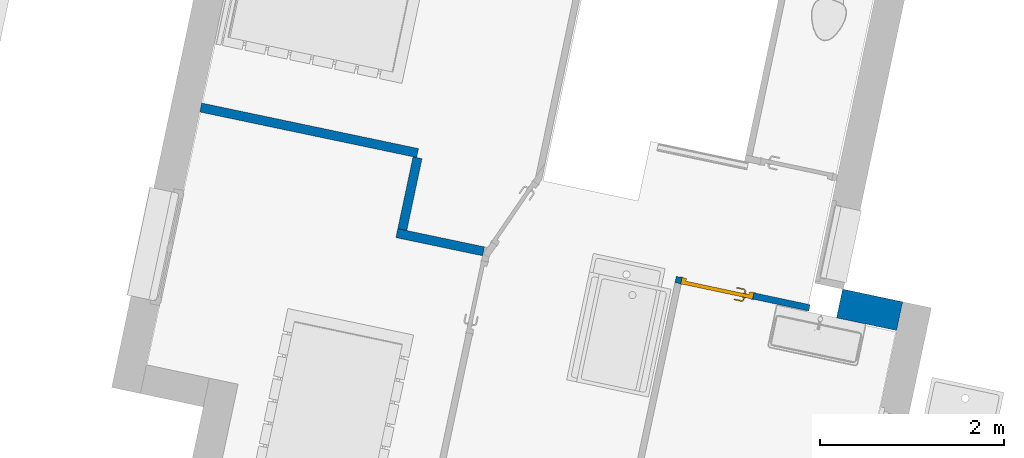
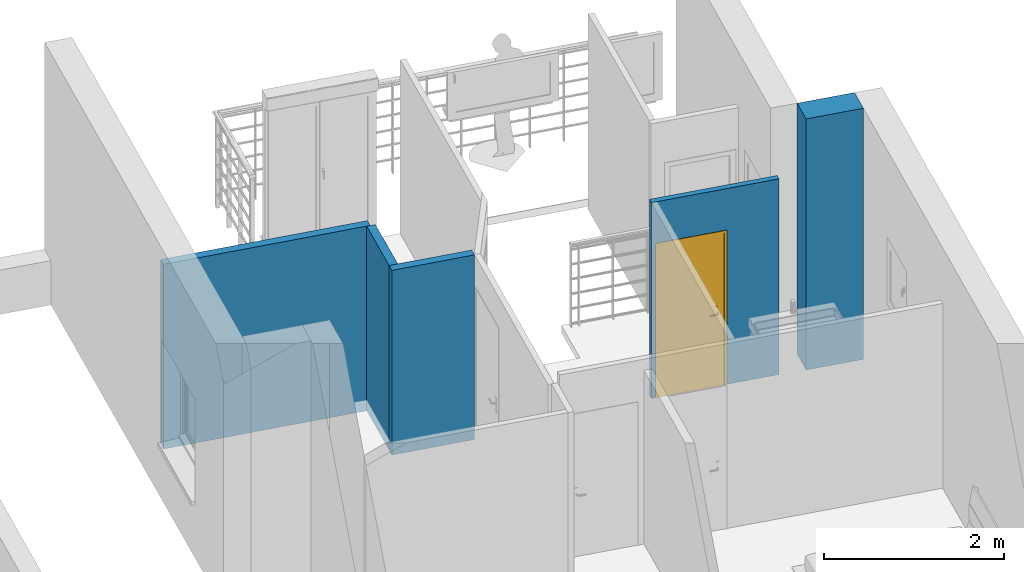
# One storey, part 7 of 18: 5 walls, 1 door, 3 openings.
"""IFC2X3 building model written with IfcOpenShell, lengths in metres."""

from ifc_helpers import new_model, entity, si_unit, converted_unit, derived_unit, direction, frame, frame_2d, origin, place, context, subcontext, project, spatial, polyline, rectangle, outline, extrude, faceted_brep, source, transform, mapped, material, material_list, layer, layer_set, layer_usage, type_object, type_shapes, element, fill, save


model = new_model("IFC2X3")

# Units and contexts
model_context = context("Model", 3, precision=1e-05, world=origin(), true_north=direction((6.12303176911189e-17, 1.0)))
body_context = subcontext(model_context, "Body", "Model", "MODEL_VIEW")
ifc_project = project(units=[si_unit("LENGTHUNIT", "METRE"), si_unit("AREAUNIT", "SQUARE_METRE"), si_unit("VOLUMEUNIT", "CUBIC_METRE"), converted_unit("PLANEANGLEUNIT", "DEGREE", entity("IfcRatioMeasure", 0.0174532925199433), si_unit("PLANEANGLEUNIT", "RADIAN"), dimensions=[0, 0, 0, 0, 0, 0, 0]), si_unit("MASSUNIT", "GRAM", prefix="KILO"), derived_unit("MASSDENSITYUNIT", [(si_unit("MASSUNIT", "GRAM", prefix="KILO"), 1), (si_unit("LENGTHUNIT", "METRE"), -3)]), si_unit("TIMEUNIT", "SECOND"), si_unit("FREQUENCYUNIT", "HERTZ"), si_unit("THERMODYNAMICTEMPERATUREUNIT", "DEGREE_CELSIUS"), derived_unit("THERMALTRANSMITTANCEUNIT", [(si_unit("MASSUNIT", "GRAM", prefix="KILO"), 1), (si_unit("THERMODYNAMICTEMPERATUREUNIT", "KELVIN"), -1), (si_unit("TIMEUNIT", "SECOND"), -3)]), derived_unit("VOLUMETRICFLOWRATEUNIT", [(si_unit("LENGTHUNIT", "METRE"), 3), (si_unit("TIMEUNIT", "SECOND"), -1)]), si_unit("ELECTRICCURRENTUNIT", "AMPERE"), si_unit("ELECTRICVOLTAGEUNIT", "VOLT"), si_unit("POWERUNIT", "WATT"), si_unit("FORCEUNIT", "NEWTON", prefix="KILO"), si_unit("ILLUMINANCEUNIT", "LUX"), si_unit("LUMINOUSFLUXUNIT", "LUMEN"), si_unit("LUMINOUSINTENSITYUNIT", "CANDELA"), derived_unit("USERDEFINED", [(si_unit("MASSUNIT", "GRAM", prefix="KILO"), -1), (si_unit("LENGTHUNIT", "METRE"), -2), (si_unit("TIMEUNIT", "SECOND"), 3), (si_unit("LUMINOUSFLUXUNIT", "LUMEN"), 1)]), derived_unit("LINEARVELOCITYUNIT", [(si_unit("LENGTHUNIT", "METRE"), 1), (si_unit("TIMEUNIT", "SECOND"), -1)]), si_unit("PRESSUREUNIT", "PASCAL"), derived_unit("USERDEFINED", [(si_unit("LENGTHUNIT", "METRE"), -2), (si_unit("MASSUNIT", "GRAM", prefix="KILO"), 1), (si_unit("TIMEUNIT", "SECOND"), -2)])], contexts=[model_context])

# Site, building, storey
site_placement = place(None, origin())
site = spatial("IfcSite", under=ifc_project, at=site_placement, Name="Default", CompositionType="ELEMENT")
building_placement = place(site_placement, origin())
building = spatial("IfcBuilding", under=site, at=building_placement, CompositionType="ELEMENT")
storey_placement = place(building_placement, frame((0.0, 0.0, 2.8)))
storey = spatial("IfcBuildingStorey", under=building, at=storey_placement, Name="ETAGE", CompositionType="ELEMENT", Elevation=2.8)

# Wall, opening
ifc_material_1 = material(Name="Enduit blanc cassé2")
ifc_layer_1 = layer(ifc_material_1, 0.02)
ifc_material_2 = material(Name="Parpaing")
ifc_layer_2 = layer(ifc_material_2, 0.2)
ifc_material_3 = material(Name="Isolant")
ifc_layer_3 = layer(ifc_material_3, 0.1)
ifc_layer_set_1 = layer_set([ifc_layer_1, ifc_layer_2, ifc_layer_3], Name="Mur de base:Ext. Parpaing 20 + Isolant 10 enduit blanc cassé")
ifc_layer_usage_1 = layer_usage(ifc_layer_set_1, "AXIS2", "POSITIVE", -0.16)
wall_type_1 = type_object("IfcWallType", Name="Mur de base:Ext. Parpaing 20 + Isolant 10 enduit blanc cassé", PredefinedType="STANDARD", material=ifc_layer_set_1)
wall_1_placement = place(storey_placement, frame((-10.4137530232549, 81.3427556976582, 0.0), z_axis=(0.0, 0.0, 1.0), x_axis=(-0.978238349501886, 0.207484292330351, 0.0)))
wall_1 = element("IfcWallStandardCase", 1, at=wall_1_placement, inside=storey, type_object=wall_type_1, material=ifc_layer_usage_1, Name="Mur de base:Ext. Parpaing 20 + Isolant 10 enduit blanc cassé", ObjectType="Mur de base:Ext. Parpaing 20 + Isolant 10 enduit blanc cassé", context=body_context, shape_type="SweptSolid", body=[
    extrude(rectangle(XDim=0.66848034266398, YDim=0.319999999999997, at=frame_2d((0.334240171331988, 5.62050406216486e-15), x_axis=(-1.0, 0.0))), origin(), (0.0, 0.0, 1.0), 3.4),
])
opening_1_placement = place(wall_1_placement, frame((1.27722268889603, -0.0330352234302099, 0.494039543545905)))
element("IfcOpeningElement", 2, at=opening_1_placement, cuts=wall_1, Name="Mur de base:Ext. Parpaing 20 + Isolant 10 enduit blanc cassé", ObjectType="Opening", context=body_context, shape_type="Brep", body=[
    faceted_brep([(-0.376376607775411, -1.00245285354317, 0.0759604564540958), (-0.396376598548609, -1.00247206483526, 0.0759604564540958), (-0.396376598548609, -1.00247206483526, 1.67596045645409), (-0.956376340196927, -1.00300998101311, 1.67596045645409), (-0.956376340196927, -1.00300998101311, 0.0), (-0.376376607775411, -1.00245285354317, 0.0609604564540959), (0.0428547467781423, -0.202049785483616, 0.0759604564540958), (-0.297145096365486, -0.202376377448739, 0.0759604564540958), (-0.297145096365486, -0.202376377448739, 1.67596045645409), (0.0428547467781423, -0.202049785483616, 1.67596045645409), (0.0436231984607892, -1.0020494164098, 0.0759604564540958), (-0.296376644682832, -1.00237600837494, 0.0759604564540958), (-0.29632861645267, -1.05237598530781, 0.0759604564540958), (-0.346328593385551, -1.05242401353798, 0.0759604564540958), (-0.346367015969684, -1.01242403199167, 0.0759604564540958), (-0.396366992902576, -1.01247206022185, 0.0759604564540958), (-0.377145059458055, -0.202453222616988, 0.0759604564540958), (-0.397145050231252, -0.202472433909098, 0.0759604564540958), (-0.397154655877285, -0.19247243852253, 0.0759604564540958), (-0.347154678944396, -0.192424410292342, 0.0759604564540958), (-0.347193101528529, -0.152424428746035, 0.0759604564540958), (-0.297193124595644, -0.152376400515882, 0.0759604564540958), (0.0436231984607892, -1.0020494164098, 1.67596045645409), (-0.397145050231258, -0.202472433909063, 1.67596045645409), (-0.957144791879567, -0.203010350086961, 1.67596045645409), (-0.957144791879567, -0.203010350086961, 0.0), (-0.377145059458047, -0.202453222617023, 0.0609604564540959), (-0.29632861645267, -1.05237598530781, 1.72596045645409), (-0.346328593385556, -1.05242401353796, 1.72596045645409), (-0.347193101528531, -0.152424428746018, 1.72596045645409), (-0.347154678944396, -0.192424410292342, 1.68596045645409), (-0.346367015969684, -1.01242403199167, 1.68596045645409), (-0.396366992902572, -1.01247206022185, 1.68596045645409), (-0.397154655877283, -0.19247243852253, 1.68596045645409), (-0.296376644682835, -1.00237600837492, 1.67596045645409), (-0.297193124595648, -0.152376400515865, 1.72596045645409)], [[[0, 1, 2, 3, 4, 5]], [[6, 7, 8, 9]], [[10, 11, 12, 13, 14, 15, 1, 0, 16, 17, 18, 19, 20, 21, 7, 6]], [[10, 6, 9, 22]], [[3, 2, 23, 24]], [[3, 24, 25, 4]], [[4, 25, 26, 5]], [[5, 26, 16, 0]], [[12, 27, 28, 13]], [[13, 28, 29, 20, 19, 30, 31, 14]], [[14, 31, 32, 15]], [[15, 32, 33, 18, 17, 23, 2, 1]], [[11, 34, 8, 7, 21, 35, 27, 12]], [[27, 35, 29, 28]], [[30, 33, 32, 31]], [[29, 35, 21, 20]], [[19, 18, 33, 30]], [[9, 8, 34, 22]], [[24, 23, 17, 16, 26, 25]], [[22, 34, 11, 10]]]),
])

# Wall, openings, door
ifc_material_4 = material(Name="Blanc - Element de salle de bains")
ifc_layer_4 = layer(ifc_material_4, 0.07)
ifc_layer_set_2 = layer_set([ifc_layer_4], Name="Mur de base:Int.  Platre 70 mm en blanc")
ifc_layer_usage_2 = layer_usage(ifc_layer_set_2, "AXIS2", "NEGATIVE", 0.035)
wall_type_2 = type_object("IfcWallType", Name="Mur de base:Int.  Platre 70 mm en blanc", PredefinedType="STANDARD", material=ifc_layer_set_2)
wall_2_placement = place(storey_placement, frame((-11.3960010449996, 81.4335321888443, 0.0), z_axis=(0.0, 0.0, 1.0), x_axis=(-0.978238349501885, 0.207484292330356, 0.0)))
wall_2 = element("IfcWallStandardCase", 3, at=wall_2_placement, inside=storey, type_object=wall_type_2, material=ifc_layer_usage_2, Name="Mur de base:Int.  Platre 70 mm en blanc", ObjectType="Mur de base:Int.  Platre 70 mm en blanc", context=body_context, shape_type="SweptSolid", body=[
    extrude(outline(polyline([(6.72395532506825e-05, -0.0350000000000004), (1.49029262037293, -0.0350000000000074), (1.49029262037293, 0.0349999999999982), (1.42029262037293, 0.0349999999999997), (0.0, 0.0349999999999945), (6.72395532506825e-05, -0.0350000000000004)])), origin(), (0.0, 0.0, 1.0), 2.65),
])
opening_2_placement = place(wall_2_placement, frame((0.297515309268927, -0.148035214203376, 0.494039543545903)))
element("IfcOpeningElement", 4, at=opening_2_placement, cuts=wall_2, Name="Mur de base:Int.  Platre 70 mm en blanc", ObjectType="Opening", context=body_context, shape_type="Brep", body=[
    faceted_brep([(-0.376376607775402, -1.0024528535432, 0.0759604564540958), (-0.396376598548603, -1.00247206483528, 0.0759604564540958), (-0.396376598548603, -1.00247206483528, 1.67596045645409), (-0.95637634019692, -1.00300998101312, 1.67596045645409), (-0.95637634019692, -1.00300998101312, 0.0), (-0.376376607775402, -1.0024528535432, 0.0609604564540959), (0.0428547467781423, -0.202049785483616, 0.0759604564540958), (-0.297145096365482, -0.202376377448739, 0.0759604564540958), (-0.297145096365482, -0.202376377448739, 1.67596045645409), (0.0428547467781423, -0.202049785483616, 1.67596045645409), (0.0436231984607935, -1.0020494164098, 0.0759604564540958), (-0.296376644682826, -1.00237600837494, 0.0759604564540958), (-0.296328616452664, -1.05237598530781, 0.0759604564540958), (-0.346328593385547, -1.052424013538, 0.0759604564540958), (-0.346367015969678, -1.01242403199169, 0.0759604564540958), (-0.396366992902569, -1.01247206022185, 0.0759604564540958), (-0.377145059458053, -0.202453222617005, 0.0759604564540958), (-0.39714505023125, -0.202472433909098, 0.0759604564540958), (-0.397154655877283, -0.19247243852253, 0.0759604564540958), (-0.347154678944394, -0.192424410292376, 0.0759604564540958), (-0.347193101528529, -0.152424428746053, 0.0759604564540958), (-0.297193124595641, -0.152376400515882, 0.0759604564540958), (0.0436231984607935, -1.0020494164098, 1.67596045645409), (-0.397145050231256, -0.202472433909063, 1.67596045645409), (-0.957144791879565, -0.203010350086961, 1.67596045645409), (-0.957144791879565, -0.203010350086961, 0.0), (-0.377145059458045, -0.20245322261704, 0.0609604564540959), (-0.296328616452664, -1.05237598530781, 1.72596045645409), (-0.346328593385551, -1.05242401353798, 1.72596045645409), (-0.347193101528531, -0.152424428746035, 1.72596045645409), (-0.347154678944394, -0.192424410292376, 1.68596045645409), (-0.346367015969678, -1.01242403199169, 1.68596045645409), (-0.396366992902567, -1.01247206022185, 1.68596045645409), (-0.397154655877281, -0.19247243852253, 1.68596045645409), (-0.296376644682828, -1.00237600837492, 1.67596045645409), (-0.297193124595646, -0.152376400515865, 1.72596045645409)], [[[0, 1, 2, 3, 4, 5]], [[6, 7, 8, 9]], [[10, 11, 12, 13, 14, 15, 1, 0, 16, 17, 18, 19, 20, 21, 7, 6]], [[10, 6, 9, 22]], [[3, 2, 23, 24]], [[3, 24, 25, 4]], [[4, 25, 26, 5]], [[5, 26, 16, 0]], [[12, 27, 28, 13]], [[13, 28, 29, 20, 19, 30, 31, 14]], [[14, 31, 32, 15]], [[15, 32, 33, 18, 17, 23, 2, 1]], [[11, 34, 8, 7, 21, 35, 27, 12]], [[27, 35, 29, 28]], [[30, 33, 32, 31]], [[29, 35, 21, 20]], [[19, 18, 33, 30]], [[9, 8, 34, 22]], [[24, 23, 17, 16, 26, 25]], [[22, 34, 11, 10]]]),
])
opening_3_placement = place(wall_2_placement, frame((0.625946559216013, -0.035, 0.0)))
opening_3 = element("IfcOpeningElement", 5, at=opening_3_placement, cuts=wall_2, Name="Int. Simple:PP (0.73m x 2.04m):1", ObjectType="Opening", context=body_context, shape_type="SweptSolid", body=[
    extrude(rectangle(XDim=2.075, YDim=0.799999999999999, at=frame_2d((1.0375, 0.4), x_axis=(1.0, 0.0))), frame((0.0, 0.0, 0.0), z_axis=(0.0, 1.0, 0.0), x_axis=(0.0, 0.0, 1.0)), (0.0, 0.0, 1.0), 0.07),
])
ifc_material_5 = material(Name="Finition Peinture - Blanc satiné")
ifc_material_6 = material(Name="Bois - Mélaminé hêtre")
ifc_material_list_1 = material_list([ifc_material_5, ifc_material_6])
ifc_material_list_2 = material_list([ifc_material_5, ifc_material_6])
door_style = type_object("IfcDoorStyle", Name="PP (0.73m x 2.04m)", ConstructionType="NOTDEFINED", OperationType="SINGLE_SWING_RIGHT", ParameterTakesPrecedence=False, Sizeable=False, material=ifc_material_list_2)
shared_shape = source(origin(), body_context, "Body", "Brep", [
    faceted_brep([(0.795000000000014, -0.00500000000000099, 0.870000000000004), (0.795000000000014, -0.00500000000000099, 1.08), (0.785352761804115, -0.00500000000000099, 1.08399601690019), (0.775000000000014, -0.00500000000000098, 1.08535898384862), (0.764647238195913, -0.00500000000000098, 1.08399601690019), (0.755000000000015, -0.00500000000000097, 1.08), (0.755000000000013, -0.00500000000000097, 0.870000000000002), (0.764647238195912, -0.00500000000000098, 0.866003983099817), (0.775000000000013, -0.00500000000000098, 0.86464101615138), (0.785352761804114, -0.00500000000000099, 0.866003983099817), (0.795000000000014, 0.0, 1.08), (0.795000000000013, 0.0, 0.870000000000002), (0.785352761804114, 0.0, 0.866003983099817), (0.775000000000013, 0.0, 0.86464101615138), (0.764647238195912, 0.0, 0.866003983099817), (0.755000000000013, 0.0, 0.870000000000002), (0.755000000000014, 0.0, 1.08), (0.764647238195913, 0.0, 1.08399601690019), (0.775000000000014, 0.0, 1.08535898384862), (0.785352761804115, 0.0, 1.08399601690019)], [[[0, 1, 2, 3, 4, 5, 6, 7, 8, 9]], [[10, 11, 12, 13, 14, 15, 16, 17, 18, 19]], [[9, 12, 11, 0]], [[8, 13, 12, 9]], [[7, 14, 13, 8]], [[7, 6, 15, 14]], [[15, 6, 5, 16]], [[4, 17, 16, 5]], [[3, 18, 17, 4]], [[2, 19, 18, 3]], [[2, 1, 10, 19]], [[11, 10, 1, 0]]]),
    faceted_brep([(0.795000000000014, 0.039999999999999, 0.870000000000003), (0.795000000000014, 0.039999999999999, 1.08), (0.785352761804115, 0.039999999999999, 1.08399601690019), (0.775000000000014, 0.039999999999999, 1.08535898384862), (0.764647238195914, 0.039999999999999, 1.08399601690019), (0.755000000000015, 0.039999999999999, 1.08), (0.755000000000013, 0.039999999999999, 0.870000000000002), (0.764647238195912, 0.039999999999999, 0.866003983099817), (0.775000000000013, 0.039999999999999, 0.86464101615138), (0.785352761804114, 0.039999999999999, 0.866003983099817), (0.775000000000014, 0.044999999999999, 1.08535898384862), (0.785352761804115, 0.044999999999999, 1.08399601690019), (0.795000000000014, 0.044999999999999, 1.08), (0.795000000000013, 0.044999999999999, 0.870000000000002), (0.785352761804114, 0.044999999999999, 0.866003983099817), (0.775000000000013, 0.044999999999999, 0.86464101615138), (0.764647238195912, 0.044999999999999, 0.866003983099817), (0.755000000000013, 0.044999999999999, 0.870000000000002), (0.755000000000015, 0.044999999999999, 1.08), (0.764647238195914, 0.044999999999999, 1.08399601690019)], [[[0, 1, 2, 3, 4, 5, 6, 7, 8, 9]], [[10, 11, 12, 13, 14, 15, 16, 17, 18, 19]], [[4, 19, 18, 5]], [[3, 10, 19, 4]], [[2, 11, 10, 3]], [[2, 1, 12, 11]], [[13, 12, 1, 0]], [[9, 14, 13, 0]], [[8, 15, 14, 9]], [[7, 16, 15, 8]], [[7, 6, 17, 16]], [[17, 6, 5, 18]]]),
    faceted_brep([(0.772974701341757, -0.00500000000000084, 1.00778044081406), (0.777025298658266, -0.00500000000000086, 1.00778044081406), (0.781000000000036, -0.00500000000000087, 1.00699999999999), (0.781000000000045, -0.00500000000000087, 0.992999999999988), (0.777025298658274, -0.00500000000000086, 0.99221955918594), (0.772974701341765, -0.00500000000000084, 0.992219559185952), (0.768999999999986, -0.00500000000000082, 0.993000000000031), (0.768999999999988, -0.00500000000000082, 1.007), (0.777025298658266, -0.0310045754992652, 1.00778044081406), (0.781000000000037, -0.0326509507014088, 1.007), (0.772974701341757, -0.0293267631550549, 1.00778044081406), (0.759298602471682, -0.0430028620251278, 1.00778044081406), (0.760976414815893, -0.047053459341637, 1.00778044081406), (0.768999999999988, -0.0276803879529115, 1.007), (0.768999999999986, -0.0276803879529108, 0.993000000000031), (0.772974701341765, -0.0293267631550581, 0.992219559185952), (0.777025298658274, -0.0310045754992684, 0.99221955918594), (0.760976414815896, -0.0470534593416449, 0.99221955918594), (0.759298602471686, -0.0430028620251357, 0.992219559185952), (0.781000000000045, -0.0326509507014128, 0.992999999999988), (0.762622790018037, -0.051028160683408, 1.007), (0.757652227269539, -0.0390281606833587, 1.007), (0.757652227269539, -0.0390281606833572, 0.993000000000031), (0.76262279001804, -0.0510281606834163, 0.992999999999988), (0.674981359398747, -0.0510281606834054, 1.007), (0.674981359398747, -0.0470534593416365, 1.00778044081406), (0.674981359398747, -0.0430028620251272, 1.00778044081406), (0.674981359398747, -0.0390281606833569, 1.00699999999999), (0.674981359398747, -0.0390281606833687, 0.993000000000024), (0.674981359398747, -0.0430028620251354, 0.992219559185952), (0.674981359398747, -0.0470534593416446, 0.99221955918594), (0.674981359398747, -0.0510281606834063, 0.992999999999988), (0.71713998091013, -0.0450281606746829, 1.0078786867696), (0.722692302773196, -0.0510281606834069, 1.007), (0.716316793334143, -0.0390281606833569, 1.007), (0.716316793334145, -0.0390281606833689, 0.993000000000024), (0.717139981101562, -0.0450281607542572, 0.992121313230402), (0.722692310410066, -0.0510281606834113, 0.992999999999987)], [[[0, 1, 2, 3, 4, 5, 6, 7]], [[2, 1, 8, 9]], [[1, 0, 10, 11, 12, 8]], [[0, 7, 13, 10]], [[14, 13, 7, 6]], [[5, 15, 14, 6]], [[5, 4, 16, 17, 18, 15]], [[3, 19, 16, 4]], [[9, 19, 3, 2]], [[9, 8, 12, 20]], [[10, 13, 21, 11]], [[22, 21, 13, 14]], [[14, 15, 18, 22]], [[16, 19, 23, 17]], [[20, 23, 19, 9]], [[24, 25, 26, 27, 28, 29, 30, 31]], [[32, 25, 33]], [[33, 25, 24]], [[33, 20, 12]], [[11, 34, 32]], [[34, 11, 21]], [[27, 26, 34]], [[32, 26, 25]], [[32, 34, 26]], [[32, 33, 12]], [[11, 32, 12]], [[21, 22, 35, 28, 27, 34]], [[36, 29, 35]], [[30, 36, 37]], [[18, 35, 22]], [[29, 28, 35]], [[30, 37, 31]], [[37, 17, 23]], [[36, 17, 37]], [[36, 18, 17]], [[36, 35, 18]], [[29, 36, 30]], [[23, 20, 33, 24, 31, 37]]]),
    faceted_brep([(0.772974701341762, 0.0449999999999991, 0.992219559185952), (0.777025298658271, 0.0449999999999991, 0.99221955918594), (0.781000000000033, 0.0449999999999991, 0.992999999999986), (0.781000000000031, 0.0449999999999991, 1.007), (0.777025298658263, 0.0449999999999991, 1.00778044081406), (0.772974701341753, 0.0449999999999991, 1.00778044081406), (0.768999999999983, 0.0449999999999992, 1.007), (0.768999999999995, 0.0449999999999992, 0.993000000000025), (0.768999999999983, 0.0674852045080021, 1.007), (0.768999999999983, 0.0674852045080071, 0.993000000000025), (0.772974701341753, 0.0691315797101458, 1.00778044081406), (0.777025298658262, 0.070809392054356, 1.00778044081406), (0.760838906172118, 0.0869957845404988, 1.00778044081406), (0.759161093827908, 0.0829451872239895, 1.00778044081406), (0.781000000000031, 0.0724557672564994, 1.007), (0.781000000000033, 0.0724557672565, 0.992999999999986), (0.777025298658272, 0.0708093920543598, 0.99221955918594), (0.772974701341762, 0.0691315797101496, 0.992219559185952), (0.759161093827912, 0.0829451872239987, 0.992219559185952), (0.760838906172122, 0.0869957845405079, 0.99221955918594), (0.757514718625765, 0.0789704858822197, 1.007), (0.757514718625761, 0.0789704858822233, 0.993000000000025), (0.762485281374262, 0.0909704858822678, 1.007), (0.762485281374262, 0.0909704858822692, 0.992999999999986), (0.674954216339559, 0.0829451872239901, 1.00778044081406), (0.674954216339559, 0.0869957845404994, 1.00778044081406), (0.674954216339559, 0.0909704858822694, 1.007), (0.674954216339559, 0.0909704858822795, 0.992999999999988), (0.674954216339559, 0.0869957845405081, 0.99221955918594), (0.674954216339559, 0.0829451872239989, 0.992219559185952), (0.674954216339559, 0.07897048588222, 0.993000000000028), (0.674954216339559, 0.0789704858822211, 1.007), (0.716234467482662, 0.0789704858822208, 1.007), (0.716234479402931, 0.0789704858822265, 0.993000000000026), (0.717057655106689, 0.0849704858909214, 1.0078786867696), (0.722554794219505, 0.0909704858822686, 1.007), (0.722554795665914, 0.0909704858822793, 0.992999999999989), (0.717057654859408, 0.0849704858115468, 0.992121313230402)], [[[0, 1, 2, 3, 4, 5, 6, 7]], [[8, 9, 7, 6]], [[5, 10, 8, 6]], [[5, 4, 11, 12, 13, 10]], [[3, 14, 11, 4]], [[14, 3, 2, 15]], [[2, 1, 16, 15]], [[1, 0, 17, 18, 19, 16]], [[0, 7, 9, 17]], [[20, 21, 9, 8]], [[8, 10, 13, 20]], [[14, 22, 12, 11]], [[23, 22, 14, 15]], [[15, 16, 19, 23]], [[17, 9, 21, 18]], [[24, 25, 26, 27, 28, 29, 30, 31]], [[21, 20, 32, 31, 30, 33]], [[34, 24, 32]], [[25, 34, 35]], [[13, 32, 20]], [[24, 31, 32]], [[25, 35, 26]], [[35, 12, 22]], [[34, 12, 35]], [[34, 13, 12]], [[34, 32, 13]], [[24, 34, 25]], [[22, 23, 36, 27, 26, 35]], [[37, 28, 36]], [[36, 28, 27]], [[36, 23, 19]], [[18, 33, 37]], [[33, 18, 21]], [[30, 29, 33]], [[37, 29, 28]], [[37, 33, 29]], [[37, 36, 19]], [[18, 37, 19]]]),
    faceted_brep([(0.835000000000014, 0.0400000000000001, 2.04), (0.835000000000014, 0.0400000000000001, 0.0), (0.105000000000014, 0.0400000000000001, 0.0), (0.105000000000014, 0.0400000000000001, 2.04), (0.835000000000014, 0.0, 2.04), (0.105000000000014, 0.0, 2.04), (0.105000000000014, 0.0, 0.0), (0.835000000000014, 0.0, 0.0)], [[[0, 1, 2, 3]], [[4, 5, 6, 7]], [[3, 5, 4, 0]], [[2, 6, 5, 3]], [[1, 7, 6, 2]], [[0, 4, 7, 1]]]),
    faceted_brep([(0.870000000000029, 0.0, 0.0), (0.835000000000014, 0.0, 0.0), (0.835000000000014, 0.04, 0.0), (0.820000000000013, 0.04, 0.0), (0.820000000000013, 0.0699999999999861, 0.0), (0.870000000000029, 0.0699999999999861, 0.0), (0.870000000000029, 0.0699999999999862, 2.07500000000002), (0.870000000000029, 0.0, 2.07500000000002), (0.820000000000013, 0.0699999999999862, 2.025), (0.120000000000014, 0.0699999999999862, 2.025), (0.120000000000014, 0.0699999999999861, 0.0), (0.0699999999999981, 0.0699999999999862, 0.0), (0.0699999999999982, 0.0699999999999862, 2.07500000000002), (0.820000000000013, 0.04, 2.025), (0.835000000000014, 0.04, 2.04), (0.105000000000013, 0.04, 2.04), (0.105000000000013, 0.04, 0.0), (0.120000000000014, 0.04, 0.0), (0.120000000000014, 0.04, 2.025), (0.835000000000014, 0.0, 2.04), (0.0699999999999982, 0.0, 2.07500000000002), (0.0699999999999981, 0.0, 0.0), (0.105000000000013, 0.0, 0.0), (0.105000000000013, 0.0, 2.04)], [[[0, 1, 2, 3, 4, 5]], [[5, 6, 7, 0]], [[4, 8, 9, 10, 11, 12, 6, 5]], [[3, 13, 8, 4]], [[2, 14, 15, 16, 17, 18, 13, 3]], [[1, 19, 14, 2]], [[0, 7, 20, 21, 22, 23, 19, 1]], [[12, 11, 21, 20]], [[21, 11, 10, 17, 16, 22]], [[18, 17, 10, 9]], [[23, 22, 16, 15]], [[6, 12, 20, 7]], [[13, 18, 9, 8]], [[19, 23, 15, 14]]]),
    faceted_brep([(0.855000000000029, 0.0699999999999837, 0.0), (0.855000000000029, 0.0749999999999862, 0.0), (0.885000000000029, 0.0749999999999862, 0.0), (0.885000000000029, 0.0699999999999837, 0.0), (0.885000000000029, 0.0699999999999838, 2.09000000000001), (0.0550000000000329, 0.0699999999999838, 2.09000000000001), (0.055000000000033, 0.0699999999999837, 0.0), (0.0850000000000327, 0.0699999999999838, 0.0), (0.0850000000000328, 0.0699999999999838, 2.06000000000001), (0.855000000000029, 0.0699999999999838, 2.06000000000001), (0.885000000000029, 0.0749999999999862, 2.09000000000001), (0.855000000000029, 0.0749999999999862, 2.06000000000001), (0.0850000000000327, 0.0749999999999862, 2.06000000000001), (0.0850000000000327, 0.0749999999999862, 0.0), (0.055000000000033, 0.0749999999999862, 0.0), (0.0550000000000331, 0.0749999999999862, 2.09000000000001)], [[[0, 1, 2, 3]], [[3, 4, 5, 6, 7, 8, 9, 0]], [[2, 10, 4, 3]], [[1, 11, 12, 13, 14, 15, 10, 2]], [[0, 9, 11, 1]], [[7, 6, 14, 13]], [[8, 7, 13, 12]], [[15, 14, 6, 5]], [[10, 15, 5, 4]], [[9, 8, 12, 11]]]),
    faceted_brep([(0.885000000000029, -0.005, 0.0), (0.885000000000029, -0.005, 2.09000000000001), (0.0550000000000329, -0.005, 2.09000000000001), (0.055000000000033, -0.005, 0.0), (0.0850000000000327, -0.005, 0.0), (0.0850000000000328, -0.005, 2.06000000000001), (0.855000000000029, -0.005, 2.06000000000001), (0.855000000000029, -0.005, 0.0), (0.885000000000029, 0.0, 0.0), (0.885000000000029, 0.0, 2.09000000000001), (0.855000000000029, 0.0, 0.0), (0.855000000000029, 0.0, 2.06000000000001), (0.0850000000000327, 0.0, 2.06000000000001), (0.0850000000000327, 0.0, 0.0), (0.055000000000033, 0.0, 0.0), (0.0550000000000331, 0.0, 2.09000000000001)], [[[0, 1, 2, 3, 4, 5, 6, 7]], [[8, 9, 1, 0]], [[10, 11, 12, 13, 14, 15, 9, 8]], [[7, 6, 11, 10]], [[5, 4, 13, 12]], [[15, 14, 3, 2]], [[9, 15, 2, 1]], [[6, 5, 12, 11]], [[4, 3, 14, 13]], [[7, 10, 8, 0]]]),
])
type_shapes(door_style, [shared_shape])
door_placement = place(opening_3_placement, frame((0.870000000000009, 0.0699999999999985, 0.0), z_axis=(0.0, 0.0, 1.0), x_axis=(-1.0, 0.0, 0.0)))
door = element("IfcDoor", 6, at=door_placement, inside=storey, type_object=door_style, material=ifc_material_list_1, Name="Int. Simple:PP (0.73m x 2.04m)", ObjectType="Int. Simple:PP (0.73m x 2.04m)", OverallHeight=2.075, OverallWidth=0.8, context=body_context, shape_type="MappedRepresentation", body=[
    mapped(shared_shape, transform((0.0, 0.0, 0.0), scale=1.0)),
])
fill(opening_3, door)

# Walls
ifc_layer_5 = layer(ifc_material_4, 0.1)
ifc_layer_set_3 = layer_set([ifc_layer_5], Name="Mur de base:Int.  Platre 100  mm en blanc 2")
ifc_layer_usage_3 = layer_usage(ifc_layer_set_3, "AXIS2", "NEGATIVE", 0.05)
wall_type_3 = type_object("IfcWallType", Name="Mur de base:Int.  Platre 100  mm en blanc 2", PredefinedType="STANDARD", material=ifc_layer_set_3)
wall_3_placement = place(storey_placement, frame((-18.0259743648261, 83.6156577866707, 0.0), z_axis=(0.0, 0.0, 1.0), x_axis=(0.978645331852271, -0.205556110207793, 0.0)))
element("IfcWallStandardCase", 7, at=wall_3_placement, inside=storey, type_object=wall_type_3, material=ifc_layer_usage_3, Name="Mur de base:Int.  Platre 100  mm en blanc 2", ObjectType="Mur de base:Int.  Platre 100  mm en blanc 2", context=body_context, shape_type="SweptSolid", body=[
    extrude(outline(polyline([(2.41316300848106, -0.0499999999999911), (2.41316300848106, 0.0500000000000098), (0.000101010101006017, 0.0500000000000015), (0.0, -0.0500000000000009), (2.37306439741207, -0.0500000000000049), (2.41316300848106, -0.0499999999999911)])), origin(), (0.0, 0.0, 1.0), 2.5),
])
ifc_layer_usage_4 = layer_usage(ifc_layer_set_3, "AXIS2", "NEGATIVE", 0.05)
wall_4_placement = place(storey_placement, frame((-15.8903222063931, 82.2474436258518, 0.0), z_axis=(0.0, 0.0, 1.0), x_axis=(0.978645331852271, -0.205556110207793, 0.0)))
element("IfcWallStandardCase", 8, at=wall_4_placement, inside=storey, type_object=wall_type_3, material=ifc_layer_usage_4, Name="Mur de base:Int.  Platre 100  mm en blanc 2", ObjectType="Mur de base:Int.  Platre 100  mm en blanc 2", context=body_context, shape_type="SweptSolid", body=[
    extrude(outline(polyline([(0.965001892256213, -0.0499999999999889), (0.965198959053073, 0.0500000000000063), (0.100197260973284, 0.0500000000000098), (0.000197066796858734, 0.0500000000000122), (0.0, -0.0500000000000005), (0.965001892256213, -0.0499999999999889)])), origin(), (0.0, 0.0, 1.0), 2.5),
])
ifc_layer_usage_5 = layer_usage(ifc_layer_set_3, "AXIS2", "POSITIVE", -0.05)
wall_5_placement = place(storey_placement, frame((-15.8309396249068, 82.2859611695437, 0.0), z_axis=(0.0, 0.0, 1.0), x_axis=(0.207484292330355, 0.978238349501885, 0.0)))
element("IfcWallStandardCase", 9, at=wall_5_placement, inside=storey, type_object=wall_type_3, material=ifc_layer_usage_5, Name="Mur de base:Int.  Platre 100  mm en blanc 2", ObjectType="Mur de base:Int.  Platre 100  mm en blanc 2", context=body_context, shape_type="SweptSolid", body=[
    extrude(outline(polyline([(0.8001986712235, -0.049999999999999), (0.800080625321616, 0.00990146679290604), (0.800001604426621, 0.0500000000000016), (0.0, 0.0500000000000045), (0.000197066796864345, -0.0499999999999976), (0.8001986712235, -0.049999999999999)])), origin(), (0.0, 0.0, 1.0), 2.5),
])

save(model, "model.ifc")
